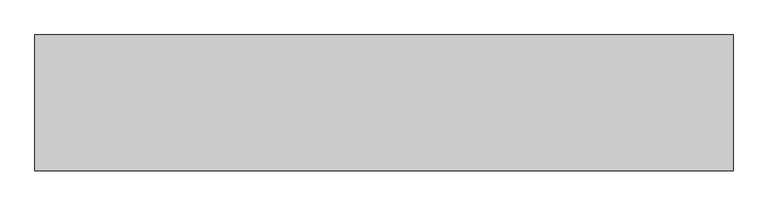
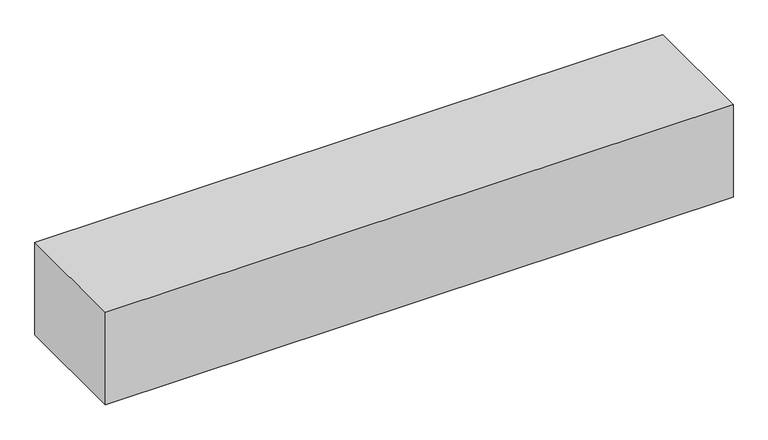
"""IFC4 building model written with IfcOpenShell, lengths in millimetres: geographic element geometry, r 低木密植 : 低木密植."""

from ifc_helpers import new_model, si_unit, origin, origin_with_axes, place, context, project, spatial, polyline, outline, extrude, source, transform, mapped, element, save


def geographic_element_0d73bef9(model_context):
    return source(origin(), model_context, "Body", "SweptSolid", [
        extrude(outline(polyline([(0.0, 0.0), (0.0, 500.0), (2570.161627, 500.0), (2570.161627, 0.0), (0.0, 0.0)])), origin_with_axes(), (0.0, 0.0, 1.0), 400.0),
    ])


if __name__ == "__main__":
    model = new_model("IFC4")
    model_context = context("Model", 3, world=origin())
    ifc_project = project(units=[si_unit("LENGTHUNIT", "METRE", prefix="MILLI")], contexts=[model_context])
    site = spatial("IfcSite", under=ifc_project)
    building = spatial("IfcBuilding", under=site)
    placement = place(None, origin())
    geographic_element_shape = geographic_element_0d73bef9(model_context)
    element("IfcGeographicElement", 1, ObjectType="r 低木密植 : 低木密植", at=placement, inside=building, context=model_context, shape_type="MappedRepresentation", body=[
        mapped(geographic_element_shape, transform((0.0, 0.0, 0.0), x_axis=(1.0, 0.0, 0.0), y_axis=(0.0, 1.0, 0.0), z_axis=(0.0, 0.0, 1.0))),
    ])
    save(model, "model.ifc")
